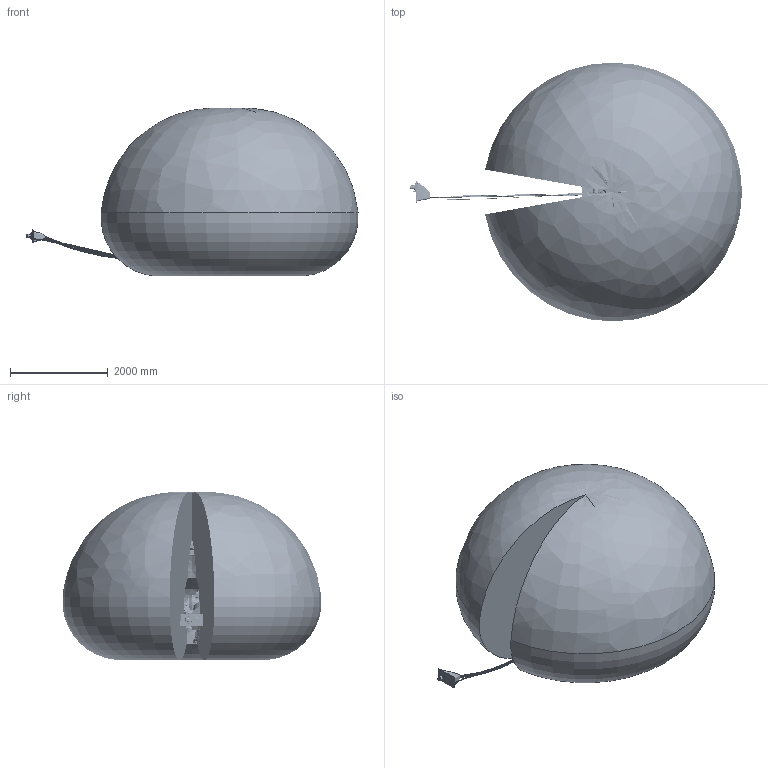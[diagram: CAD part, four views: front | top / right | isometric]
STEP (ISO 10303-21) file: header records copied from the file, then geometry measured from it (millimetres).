
FILE_DESCRIPTION(/* description */ (''),/* implementation_level */ '2;1');
FILE_NAME(/* name */ 'E:\组装完成的图纸\IRB 6790\IRB 6790-235-2.65\IRB 6790-235-2.65(带工作域).stp',/* time_stamp */ '2023-10-31T15:38:37+08:00',/* author */ ('Administrator'),/* organization */ (''),/* preprocessor_version */ 'ST-DEVELOPER v16.5',/* originating_system */ 'Autodesk Inventor 2017',/* authorisation */ '');
FILE_SCHEMA (('AUTOMOTIVE_DESIGN { 1 0 10303 214 3 1 1 }'));
Products named in the file (18): 部件2; IRB6700'6790_235-265_IRC5_rev00_LOGO1_CAD; IRB6700'6790_235-265_IRC5_rev00_LOGO2_CAD; IRB6700'6790_235-265_IRC5_rev00_LOGO3_CAD; IRB6700'6790_235-265_IRC5_rev01_BASE_CAD; IRB6700'6790_235-265_IRC5_rev01_LINK02m_CABLE; IRB6700'6790_235-265_IRC5_rev02_LINK01m_CABLE; IRB6700'6790_235-265_IRC5_rev02_LINK03m_CABLE; IRB6700'6790_235-265_IRC5_rev02_LINK04_CAD; IRB6700'6790_235-265_IRC5_rev02_LINK06_CAD; IRB6700'6790_235-265_IRC5_rev03_LINK02_CAD; IRB6700'6790_235-265_IRC5_rev03_ROD_CAD; IRB6700'6790_235-265_IRC5_rev04_LINK05_CAD; IRB6700'6790_235-265_IRC5_rev05_LINK03_CAD; IRB6700'6790_235-265_IRC5_rev06_CYLINDER_CAD; IRB6700'6790_235-265_IRC5_rev06_LINK01_CAD; IRB6700'6790_265_Working_space; IRB6790_IRC5_rev_00_harness
Assembly tree (1 placements, depth 2):
  部件2
    IRB6790_IRC5_rev_00_harness
  IRB6700'6790_235-265_IRC5_rev00_LOGO1_CAD
  IRB6700'6790_235-265_IRC5_rev00_LOGO2_CAD
  IRB6700'6790_235-265_IRC5_rev00_LOGO3_CAD
  IRB6700'6790_235-265_IRC5_rev01_BASE_CAD
Bounding box: 6798.66 x 5300 x 3434.37 mm (x, y, z)
Volume: 49739946104.6 mm3; surface area: 104972635.6 mm2
Topology: 19 solids, 21 shells, 6958 faces, 18314 edges, 11759 vertices
Faces by surface type: plane 3831, cylinder 1590, cone 678, bspline 654, torus 159, sphere 46
Full cylindrical faces by diameter (mm): 3 x4, 5 x23, 5.5 x3, 6 x31, 6.4 x1, 6.5 x6, 6.6 x9, 6.8 x12, 6.9 x1, 7 x16, 7.1 x2, 7.4 x2, 7.5 x8, 8 x5, 8.1 x2, 8.3 x4, 8.5 x4, 8.6 x4, 8.8 x4, 9 x5, 10 x5, 10.08 x2, 10.2 x37, 11.05 x4, 11.5 x4, 11.8 x8, 12 x9, 12.5 x6, 13 x3, 13.8 x3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
Entity records: 336042 total; most frequent: CARTESIAN_POINT 169463, ORIENTED_EDGE 34646, DIRECTION 32328, EDGE_CURVE 17323, VERTEX_POINT 11495, AXIS2_PLACEMENT_3D 11238, LINE 9852, VECTOR 9852
